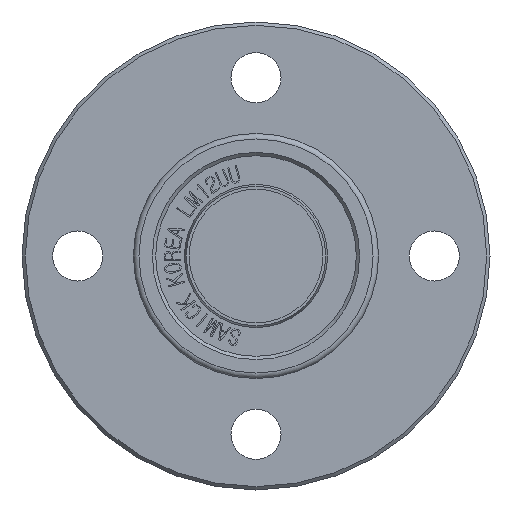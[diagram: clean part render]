
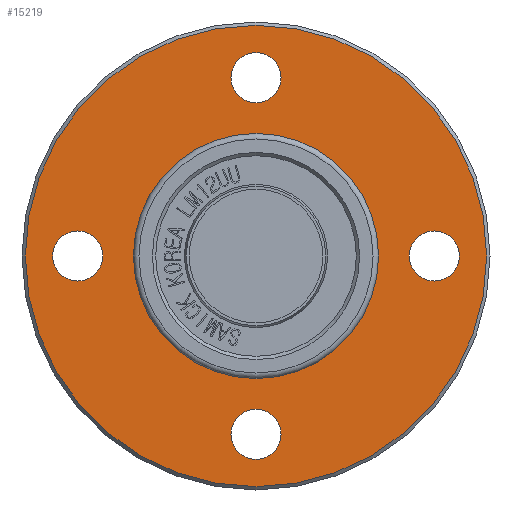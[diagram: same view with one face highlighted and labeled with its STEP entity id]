
A CAD part, front view. The second image highlights one B-rep face of the part: STEP entity #15219.
In plain terms, the highlighted planar face has unit normal (0, -1, 0).
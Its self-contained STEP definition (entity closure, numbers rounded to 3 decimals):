
#4435=FACE_BOUND('',#5348,.T.);
#4436=FACE_BOUND('',#5349,.T.);
#4437=FACE_BOUND('',#5350,.T.);
#4438=FACE_BOUND('',#5351,.T.);
#4439=FACE_BOUND('',#5352,.T.);
#4508=FACE_OUTER_BOUND('',#5347,.T.);
#5347=EDGE_LOOP('',(#10316,#10317));
#5348=EDGE_LOOP('',(#10318));
#5349=EDGE_LOOP('',(#10319));
#5350=EDGE_LOOP('',(#10320));
#5351=EDGE_LOOP('',(#10321));
#5352=EDGE_LOOP('',(#10322,#10323));
#6230=CIRCLE('',#16067,2.25);
#6236=CIRCLE('',#16076,2.25);
#6242=CIRCLE('',#16085,2.25);
#6248=CIRCLE('',#16094,2.25);
#6255=CIRCLE('',#16104,20.7);
#6256=CIRCLE('',#16105,20.7);
#6257=CIRCLE('',#16107,11.);
#6258=CIRCLE('',#16108,11.);
#6304=VERTEX_POINT('',#18192);
#6310=VERTEX_POINT('',#18209);
#6316=VERTEX_POINT('',#18226);
#6322=VERTEX_POINT('',#18243);
#6329=VERTEX_POINT('',#18263);
#6330=VERTEX_POINT('',#18264);
#6331=VERTEX_POINT('',#18269);
#6332=VERTEX_POINT('',#18270);
#7890=EDGE_CURVE('',#6304,#6304,#6230,.T.);
#7898=EDGE_CURVE('',#6310,#6310,#6236,.T.);
#7906=EDGE_CURVE('',#6316,#6316,#6242,.T.);
#7914=EDGE_CURVE('',#6322,#6322,#6248,.T.);
#7923=EDGE_CURVE('',#6329,#6330,#6255,.T.);
#7924=EDGE_CURVE('',#6330,#6329,#6256,.T.);
#7926=EDGE_CURVE('',#6331,#6332,#6257,.T.);
#7927=EDGE_CURVE('',#6332,#6331,#6258,.T.);
#10316=ORIENTED_EDGE('',*,*,#7923,.T.);
#10317=ORIENTED_EDGE('',*,*,#7924,.T.);
#10318=ORIENTED_EDGE('',*,*,#7890,.T.);
#10319=ORIENTED_EDGE('',*,*,#7898,.T.);
#10320=ORIENTED_EDGE('',*,*,#7906,.T.);
#10321=ORIENTED_EDGE('',*,*,#7914,.T.);
#10322=ORIENTED_EDGE('',*,*,#7926,.F.);
#10323=ORIENTED_EDGE('',*,*,#7927,.F.);
#14976=PLANE('',#16106);
#15219=ADVANCED_FACE('',(#4508,#4435,#4436,#4437,#4438,#4439),#14976,.T.);
#16067=AXIS2_PLACEMENT_3D('',#18194,#16408,#16409);
#16076=AXIS2_PLACEMENT_3D('',#18211,#16428,#16429);
#16085=AXIS2_PLACEMENT_3D('',#18228,#16448,#16449);
#16094=AXIS2_PLACEMENT_3D('',#18245,#16468,#16469);
#16104=AXIS2_PLACEMENT_3D('',#18265,#16490,#16491);
#16105=AXIS2_PLACEMENT_3D('',#18266,#16492,#16493);
#16106=AXIS2_PLACEMENT_3D('',#18268,#16495,#16496);
#16107=AXIS2_PLACEMENT_3D('',#18271,#16497,#16498);
#16108=AXIS2_PLACEMENT_3D('',#18272,#16499,#16500);
#16408=DIRECTION('center_axis',(0.,1.,0.));
#16409=DIRECTION('ref_axis',(0.,0.,
1.));
#16428=DIRECTION('center_axis',(0.,1.,0.));
#16429=DIRECTION('ref_axis',(-1.,0.,0.));
#16448=DIRECTION('center_axis',(0.,1.,0.));
#16449=DIRECTION('ref_axis',(0.,0.,
-1.));
#16468=DIRECTION('center_axis',(0.,1.,0.));
#16469=DIRECTION('ref_axis',(1.,0.,0.));
#16490=DIRECTION('center_axis',(0.,-1.,0.));
#16491=DIRECTION('ref_axis',(1.,0.,0.));
#16492=DIRECTION('center_axis',(0.,-1.,0.));
#16493=DIRECTION('ref_axis',(1.,0.,0.));
#16495=DIRECTION('center_axis',(0.,-1.,0.));
#16496=DIRECTION('ref_axis',(0.,0.,-1.));
#16497=DIRECTION('center_axis',(0.,-1.,0.));
#16498=DIRECTION('ref_axis',(1.,0.,0.));
#16499=DIRECTION('center_axis',(0.,-1.,0.));
#16500=DIRECTION('ref_axis',(1.,0.,0.));
#18192=CARTESIAN_POINT('',(0.,10.,13.75));
#18194=CARTESIAN_POINT('Origin',(0.,10.,16.));
#18209=CARTESIAN_POINT('',(-13.75,10.,0.));
#18211=CARTESIAN_POINT('Origin',(-16.,10.,0.));
#18226=CARTESIAN_POINT('',(0.,10.,-13.75));
#18228=CARTESIAN_POINT('Origin',(0.,10.,-16.));
#18243=CARTESIAN_POINT('',(13.75,10.,0.));
#18245=CARTESIAN_POINT('Origin',(16.,10.,0.));
#18263=CARTESIAN_POINT('',(20.7,10.,0.));
#18264=CARTESIAN_POINT('',(-20.7,10.,0.));
#18265=CARTESIAN_POINT('Origin',(0.,10.,0.));
#18266=CARTESIAN_POINT('Origin',(0.,10.,0.));
#18268=CARTESIAN_POINT('Origin',(11.,10.,0.));
#18269=CARTESIAN_POINT('',(11.,10.,0.));
#18270=CARTESIAN_POINT('',(-11.,10.,0.));
#18271=CARTESIAN_POINT('Origin',(0.,10.,0.));
#18272=CARTESIAN_POINT('Origin',(0.,10.,0.));
